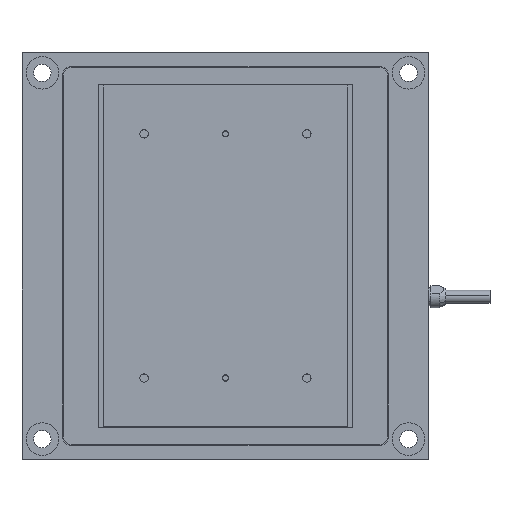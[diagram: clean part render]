
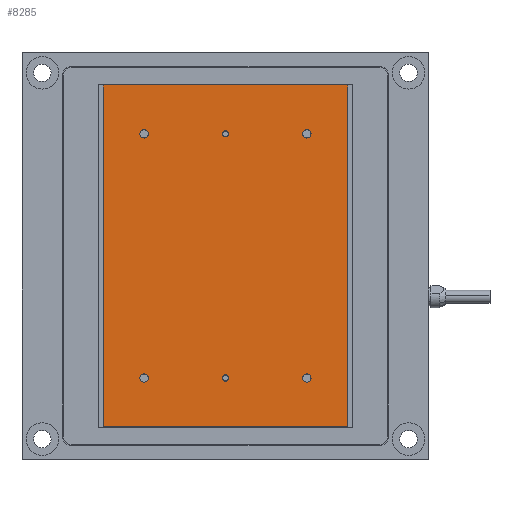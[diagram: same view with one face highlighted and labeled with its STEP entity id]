
A CAD part, top view. The second image highlights one B-rep face of the part: STEP entity #8285.
In plain terms, the highlighted planar face has unit normal (0, 0, 1).
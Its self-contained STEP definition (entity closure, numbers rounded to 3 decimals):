
#406 = CARTESIAN_POINT ( 'NONE',  ( 21.025, -30., 22.5 ) ) ;
#413 = CARTESIAN_POINT ( 'NONE',  ( 18.975, -30., 22.5 ) ) ;
#417 = CARTESIAN_POINT ( 'NONE',  ( -21.025, -30., 22.5 ) ) ;
#419 = CARTESIAN_POINT ( 'NONE',  ( -18.975, -30., 22.5 ) ) ;
#427 = CARTESIAN_POINT ( 'NONE',  ( 21.025, 30., 22.5 ) ) ;
#435 = CARTESIAN_POINT ( 'NONE',  ( 30., -42., 22.5 ) ) ;
#439 = CARTESIAN_POINT ( 'NONE',  ( 30., 42., 22.5 ) ) ;
#1481 = CARTESIAN_POINT ( 'NONE',  ( 18.975, 30., 22.5 ) ) ;
#1490 = CARTESIAN_POINT ( 'NONE',  ( -21.025, 30., 22.5 ) ) ;
#1495 = CARTESIAN_POINT ( 'NONE',  ( -30., 42., 22.5 ) ) ;
#1496 = CARTESIAN_POINT ( 'NONE',  ( -18.975, 30., 22.5 ) ) ;
#1537 = CARTESIAN_POINT ( 'NONE',  ( -30., -42., 22.5 ) ) ;
#2643 = CARTESIAN_POINT ( 'NONE',  ( 0.755, 30., 22.5 ) ) ;
#2646 = CARTESIAN_POINT ( 'NONE',  ( -0.755, 30., 22.5 ) ) ;
#2651 = CARTESIAN_POINT ( 'NONE',  ( 0.755, -30., 22.5 ) ) ;
#2654 = CARTESIAN_POINT ( 'NONE',  ( -0.755, -30., 22.5 ) ) ;
#3083 = AXIS2_PLACEMENT_3D ( 'NONE', #4317, #4312, #4318 ) ;
#3410 = CARTESIAN_POINT ( 'NONE',  ( -30., -42., 22.5 ) ) ;
#3414 = CARTESIAN_POINT ( 'NONE',  ( -30., -42., 22.5 ) ) ;
#3420 = DIRECTION ( 'NONE',  ( 0., 1., 0. ) ) ;
#3426 = DIRECTION ( 'NONE',  ( -1., 0., 0. ) ) ;
#3429 = CARTESIAN_POINT ( 'NONE',  ( 30., -42., 22.5 ) ) ;
#3430 = DIRECTION ( 'NONE',  ( 0., -1., 0. ) ) ;
#3432 = CARTESIAN_POINT ( 'NONE',  ( 0., -30., 22.5 ) ) ;
#3433 = DIRECTION ( 'NONE',  ( 0., 0., 1. ) ) ;
#3434 = DIRECTION ( 'NONE',  ( 1., 0., 0. ) ) ;
#3435 = CARTESIAN_POINT ( 'NONE',  ( 0., 30., 22.5 ) ) ;
#3436 = DIRECTION ( 'NONE',  ( 0., 0., 1. ) ) ;
#3437 = DIRECTION ( 'NONE',  ( 1., 0., 0. ) ) ;
#4312 = DIRECTION ( 'NONE',  ( 0., 0., 1. ) ) ;
#4315 = PLANE ( 'NONE',  #3083 ) ;
#4317 = CARTESIAN_POINT ( 'NONE',  ( -30., 42., 22.5 ) ) ;
#4318 = DIRECTION ( 'NONE',  ( 1., 0., 0. ) ) ;
#6028 = CARTESIAN_POINT ( 'NONE',  ( 20., 30., 22.5 ) ) ;
#6029 = DIRECTION ( 'NONE',  ( 0., 0., 1. ) ) ;
#6030 = DIRECTION ( 'NONE',  ( 1., 0., 0. ) ) ;
#6034 = CARTESIAN_POINT ( 'NONE',  ( -20., 30., 22.5 ) ) ;
#6035 = DIRECTION ( 'NONE',  ( 0., 0., 1. ) ) ;
#6036 = DIRECTION ( 'NONE',  ( 1., 0., 0. ) ) ;
#6040 = CARTESIAN_POINT ( 'NONE',  ( 20., -30., 22.5 ) ) ;
#6041 = DIRECTION ( 'NONE',  ( 0., 0., 1. ) ) ;
#6042 = DIRECTION ( 'NONE',  ( 1., 0., 0. ) ) ;
#6046 = CARTESIAN_POINT ( 'NONE',  ( -20., -30., 22.5 ) ) ;
#6047 = DIRECTION ( 'NONE',  ( 0., 0., 1. ) ) ;
#6048 = DIRECTION ( 'NONE',  ( 1., 0., 0. ) ) ;
#6150 = DIRECTION ( 'NONE',  ( 1., 0., 0. ) ) ;
#6151 = CARTESIAN_POINT ( 'NONE',  ( -30., 42., 22.5 ) ) ;
#6345 = CARTESIAN_POINT ( 'NONE',  ( -20., 30., 22.5 ) ) ;
#6346 = DIRECTION ( 'NONE',  ( 0., 0., 1. ) ) ;
#6347 = DIRECTION ( 'NONE',  ( 1., 0., 0. ) ) ;
#6368 = CARTESIAN_POINT ( 'NONE',  ( -20., -30., 22.5 ) ) ;
#6369 = DIRECTION ( 'NONE',  ( 0., 0., 1. ) ) ;
#6370 = DIRECTION ( 'NONE',  ( 1., 0., 0. ) ) ;
#6386 = CARTESIAN_POINT ( 'NONE',  ( 20., 30., 22.5 ) ) ;
#6387 = DIRECTION ( 'NONE',  ( 0., 0., 1. ) ) ;
#6388 = DIRECTION ( 'NONE',  ( 1., 0., 0. ) ) ;
#6392 = CARTESIAN_POINT ( 'NONE',  ( 20., -30., 22.5 ) ) ;
#6393 = DIRECTION ( 'NONE',  ( 0., 0., 1. ) ) ;
#6394 = DIRECTION ( 'NONE',  ( 1., 0., 0. ) ) ;
#6756 = VERTEX_POINT ( 'NONE', #2643 ) ;
#6759 = VERTEX_POINT ( 'NONE', #2646 ) ;
#6764 = VERTEX_POINT ( 'NONE', #2651 ) ;
#6767 = VERTEX_POINT ( 'NONE', #2654 ) ;
#7023 = EDGE_LOOP ( 'NONE', ( #7265, #7266 ) ) ;
#7024 = EDGE_LOOP ( 'NONE', ( #7259, #7260 ) ) ;
#7039 = EDGE_LOOP ( 'NONE', ( #7267, #7268 ) ) ;
#7040 = EDGE_LOOP ( 'NONE', ( #7261, #7262 ) ) ;
#7056 = EDGE_LOOP ( 'NONE', ( #7271, #7272, #7273, #7274 ) ) ;
#7057 = EDGE_LOOP ( 'NONE', ( #7263, #7264 ) ) ;
#7069 = EDGE_LOOP ( 'NONE', ( #7269, #7270 ) ) ;
#7259 = ORIENTED_EDGE ( 'NONE', *, *, #10661, .F. ) ;
#7260 = ORIENTED_EDGE ( 'NONE', *, *, #13598, .F. ) ;
#7261 = ORIENTED_EDGE ( 'NONE', *, *, #10662, .F. ) ;
#7262 = ORIENTED_EDGE ( 'NONE', *, *, #13582, .F. ) ;
#7263 = ORIENTED_EDGE ( 'NONE', *, *, #10603, .F. ) ;
#7264 = ORIENTED_EDGE ( 'NONE', *, *, #13432, .F. ) ;
#7265 = ORIENTED_EDGE ( 'NONE', *, *, #10601, .F. ) ;
#7266 = ORIENTED_EDGE ( 'NONE', *, *, #13442, .F. ) ;
#7267 = ORIENTED_EDGE ( 'NONE', *, *, #10599, .F. ) ;
#7268 = ORIENTED_EDGE ( 'NONE', *, *, #13424, .F. ) ;
#7269 = ORIENTED_EDGE ( 'NONE', *, *, #10597, .F. ) ;
#7270 = ORIENTED_EDGE ( 'NONE', *, *, #13440, .F. ) ;
#7271 = ORIENTED_EDGE ( 'NONE', *, *, #10652, .F. ) ;
#7272 = ORIENTED_EDGE ( 'NONE', *, *, #10655, .F. ) ;
#7273 = ORIENTED_EDGE ( 'NONE', *, *, #10658, .F. ) ;
#7274 = ORIENTED_EDGE ( 'NONE', *, *, #10660, .F. ) ;
#7655 = CIRCLE ( 'NONE', #10046, 1.025 ) ;
#7666 = CIRCLE ( 'NONE', #10051, 1.025 ) ;
#7679 = CIRCLE ( 'NONE', #10054, 1.025 ) ;
#7682 = CIRCLE ( 'NONE', #10055, 1.025 ) ;
#7907 = CIRCLE ( 'NONE', #10110, 0.755 ) ;
#7932 = CIRCLE ( 'NONE', #10117, 0.755 ) ;
#8285 = ADVANCED_FACE ( 'NONE', ( #11708, #11726, #11718, #11724, #11729, #11722, #11732 ), #4315, .T. ) ;
#8782 = VERTEX_POINT ( 'NONE', #1481 ) ;
#8783 = VERTEX_POINT ( 'NONE', #1490 ) ;
#8790 = VERTEX_POINT ( 'NONE', #1495 ) ;
#8791 = VERTEX_POINT ( 'NONE', #1496 ) ;
#8832 = VERTEX_POINT ( 'NONE', #1537 ) ;
#8912 = VERTEX_POINT ( 'NONE', #406 ) ;
#8919 = VERTEX_POINT ( 'NONE', #413 ) ;
#8923 = VERTEX_POINT ( 'NONE', #417 ) ;
#8925 = VERTEX_POINT ( 'NONE', #419 ) ;
#8933 = VERTEX_POINT ( 'NONE', #427 ) ;
#8941 = VERTEX_POINT ( 'NONE', #435 ) ;
#8945 = VERTEX_POINT ( 'NONE', #439 ) ;
#9877 = AXIS2_PLACEMENT_3D ( 'NONE', #6028, #6029, #6030 ) ;
#9879 = AXIS2_PLACEMENT_3D ( 'NONE', #6034, #6035, #6036 ) ;
#9881 = AXIS2_PLACEMENT_3D ( 'NONE', #6040, #6041, #6042 ) ;
#9883 = AXIS2_PLACEMENT_3D ( 'NONE', #6046, #6047, #6048 ) ;
#9901 = AXIS2_PLACEMENT_3D ( 'NONE', #3432, #3433, #3434 ) ;
#9902 = AXIS2_PLACEMENT_3D ( 'NONE', #3435, #3436, #3437 ) ;
#10046 = AXIS2_PLACEMENT_3D ( 'NONE', #6345, #6346, #6347 ) ;
#10051 = AXIS2_PLACEMENT_3D ( 'NONE', #6368, #6369, #6370 ) ;
#10054 = AXIS2_PLACEMENT_3D ( 'NONE', #6386, #6387, #6388 ) ;
#10055 = AXIS2_PLACEMENT_3D ( 'NONE', #6392, #6393, #6394 ) ;
#10110 = AXIS2_PLACEMENT_3D ( 'NONE', #12866, #12867, #12868 ) ;
#10117 = AXIS2_PLACEMENT_3D ( 'NONE', #12907, #12908, #12909 ) ;
#10597 = EDGE_CURVE ( 'NONE', #8933, #8782, #10983, .T. ) ;
#10599 = EDGE_CURVE ( 'NONE', #8791, #8783, #10986, .T. ) ;
#10601 = EDGE_CURVE ( 'NONE', #8912, #8919, #10988, .T. ) ;
#10603 = EDGE_CURVE ( 'NONE', #8925, #8923, #10990, .T. ) ;
#10652 = EDGE_CURVE ( 'NONE', #8790, #8945, #11066, .T. ) ;
#10655 = EDGE_CURVE ( 'NONE', #8832, #8790, #11070, .T. ) ;
#10658 = EDGE_CURVE ( 'NONE', #8941, #8832, #11076, .T. ) ;
#10660 = EDGE_CURVE ( 'NONE', #8945, #8941, #11086, .T. ) ;
#10661 = EDGE_CURVE ( 'NONE', #6764, #6767, #11088, .T. ) ;
#10662 = EDGE_CURVE ( 'NONE', #6756, #6759, #11082, .T. ) ;
#10983 = CIRCLE ( 'NONE', #9877, 1.025 ) ;
#10986 = CIRCLE ( 'NONE', #9879, 1.025 ) ;
#10988 = CIRCLE ( 'NONE', #9881, 1.025 ) ;
#10990 = CIRCLE ( 'NONE', #9883, 1.025 ) ;
#11066 = LINE ( 'NONE', #6151, #11073 ) ;
#11070 = LINE ( 'NONE', #3410, #11079 ) ;
#11073 = VECTOR ( 'NONE', #6150, 1000. ) ;
#11076 = LINE ( 'NONE', #3414, #11085 ) ;
#11079 = VECTOR ( 'NONE', #3420, 1000. ) ;
#11082 = CIRCLE ( 'NONE', #9902, 0.755 ) ;
#11085 = VECTOR ( 'NONE', #3426, 1000. ) ;
#11086 = LINE ( 'NONE', #3429, #11089 ) ;
#11088 = CIRCLE ( 'NONE', #9901, 0.755 ) ;
#11089 = VECTOR ( 'NONE', #3430, 1000. ) ;
#11708 = FACE_BOUND ( 'NONE', #7024, .T. ) ;
#11718 = FACE_BOUND ( 'NONE', #7057, .T. ) ;
#11722 = FACE_BOUND ( 'NONE', #7069, .T. ) ;
#11724 = FACE_BOUND ( 'NONE', #7023, .T. ) ;
#11726 = FACE_BOUND ( 'NONE', #7040, .T. ) ;
#11729 = FACE_BOUND ( 'NONE', #7039, .T. ) ;
#11732 = FACE_OUTER_BOUND ( 'NONE', #7056, .T. ) ;
#12866 = CARTESIAN_POINT ( 'NONE',  ( 0., 30., 22.5 ) ) ;
#12867 = DIRECTION ( 'NONE',  ( 0., 0., 1. ) ) ;
#12868 = DIRECTION ( 'NONE',  ( 1., 0., 0. ) ) ;
#12907 = CARTESIAN_POINT ( 'NONE',  ( 0., -30., 22.5 ) ) ;
#12908 = DIRECTION ( 'NONE',  ( 0., 0., 1. ) ) ;
#12909 = DIRECTION ( 'NONE',  ( 1., 0., 0. ) ) ;
#13424 = EDGE_CURVE ( 'NONE', #8783, #8791, #7655, .T. ) ;
#13432 = EDGE_CURVE ( 'NONE', #8923, #8925, #7666, .T. ) ;
#13440 = EDGE_CURVE ( 'NONE', #8782, #8933, #7679, .T. ) ;
#13442 = EDGE_CURVE ( 'NONE', #8919, #8912, #7682, .T. ) ;
#13582 = EDGE_CURVE ( 'NONE', #6759, #6756, #7907, .T. ) ;
#13598 = EDGE_CURVE ( 'NONE', #6767, #6764, #7932, .T. ) ;
